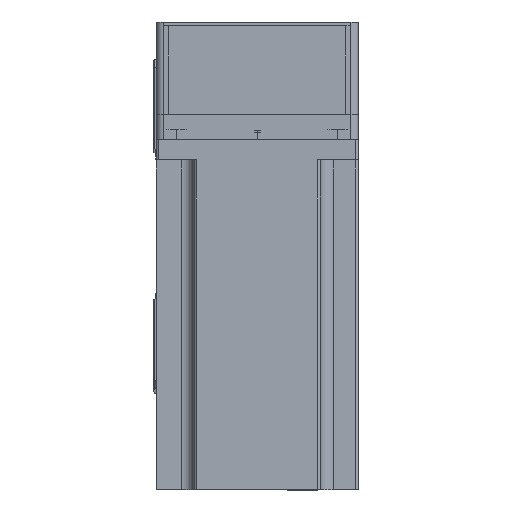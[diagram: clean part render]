
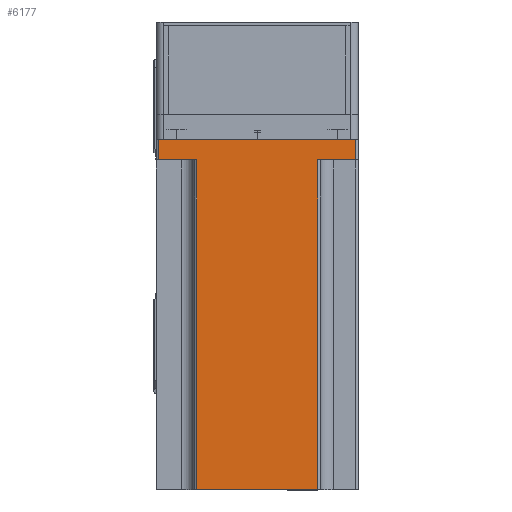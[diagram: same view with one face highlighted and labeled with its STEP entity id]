
A CAD part, top view. The second image highlights one B-rep face of the part: STEP entity #6177.
In plain terms, the highlighted planar face has unit normal (0, 0, 1) as drawn and (0, 1, 0) by its records, which use the part's own axes.
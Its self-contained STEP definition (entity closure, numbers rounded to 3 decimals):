
#1399 = VERTEX_POINT ( 'NONE', #14875 ) ;
#3654 = CARTESIAN_POINT ( 'NONE',  ( 24., 40., 138.3 ) ) ;
#4291 = EDGE_CURVE ( 'NONE', #1399, #6388, #19163, .T. ) ;
#4660 = ORIENTED_EDGE ( 'NONE', *, *, #47241, .T. ) ;
#5019 = VERTEX_POINT ( 'NONE', #41285 ) ;
#5440 = VERTEX_POINT ( 'NONE', #36002 ) ;
#5580 = LINE ( 'NONE', #22726, #35403 ) ;
#5997 = LINE ( 'NONE', #28979, #25425 ) ;
#6177 = ADVANCED_FACE ( 'NONE', ( #25103 ), #44171, .F. ) ;
#6388 = VERTEX_POINT ( 'NONE', #6774 ) ;
#6702 = CARTESIAN_POINT ( 'NONE',  ( 39., 40., 8. ) ) ;
#6774 = CARTESIAN_POINT ( 'NONE',  ( -39., 40., 8. ) ) ;
#8683 = VECTOR ( 'NONE', #19477, 1000. ) ;
#11399 = VERTEX_POINT ( 'NONE', #3654 ) ;
#11482 = CARTESIAN_POINT ( 'NONE',  ( 40., 40., 138.3 ) ) ;
#11685 = VECTOR ( 'NONE', #18305, 1000. ) ;
#12104 = VECTOR ( 'NONE', #34168, 1000. ) ;
#13028 = CARTESIAN_POINT ( 'NONE',  ( 40., 40., 138.3 ) ) ;
#13102 = CARTESIAN_POINT ( 'NONE',  ( 39., 40., 0. ) ) ;
#13364 = DIRECTION ( 'NONE',  ( -1., 0., 0. ) ) ;
#14130 = LINE ( 'NONE', #21934, #11685 ) ;
#14862 = DIRECTION ( 'NONE',  ( -1., 0., 0. ) ) ;
#14875 = CARTESIAN_POINT ( 'NONE',  ( -39., 40., 0. ) ) ;
#16893 = DIRECTION ( 'NONE',  ( 1., 0., 0. ) ) ;
#16905 = EDGE_CURVE ( 'NONE', #11399, #49289, #48956, .T. ) ;
#18148 = EDGE_LOOP ( 'NONE', ( #40304, #50141, #41544, #21693, #22981, #4660, #38672, #46018 ) ) ;
#18305 = DIRECTION ( 'NONE',  ( 0., 0., -1. ) ) ;
#19163 = LINE ( 'NONE', #32277, #29599 ) ;
#19280 = EDGE_CURVE ( 'NONE', #25148, #5440, #36818, .T. ) ;
#19477 = DIRECTION ( 'NONE',  ( -1., 0., 0. ) ) ;
#21693 = ORIENTED_EDGE ( 'NONE', *, *, #39562, .T. ) ;
#21934 = CARTESIAN_POINT ( 'NONE',  ( 24., 40., 138.3 ) ) ;
#22726 = CARTESIAN_POINT ( 'NONE',  ( 40., 40., 0. ) ) ;
#22981 = ORIENTED_EDGE ( 'NONE', *, *, #19280, .F. ) ;
#25103 = FACE_OUTER_BOUND ( 'NONE', #18148, .T. ) ;
#25148 = VERTEX_POINT ( 'NONE', #6702 ) ;
#25425 = VECTOR ( 'NONE', #32946, 1000. ) ;
#27633 = LINE ( 'NONE', #36014, #48455 ) ;
#28897 = CARTESIAN_POINT ( 'NONE',  ( 25., 40., 8. ) ) ;
#28979 = CARTESIAN_POINT ( 'NONE',  ( -24., 40., 138.3 ) ) ;
#29599 = VECTOR ( 'NONE', #36038, 1000. ) ;
#30198 = CARTESIAN_POINT ( 'NONE',  ( -25., 40., 8. ) ) ;
#32078 = DIRECTION ( 'NONE',  ( 0., 0., -1. ) ) ;
#32277 = CARTESIAN_POINT ( 'NONE',  ( -39., 40., 138.3 ) ) ;
#32946 = DIRECTION ( 'NONE',  ( 0., 0., 1. ) ) ;
#34168 = DIRECTION ( 'NONE',  ( 1., 0., 0. ) ) ;
#35403 = VECTOR ( 'NONE', #14862, 1000. ) ;
#36002 = CARTESIAN_POINT ( 'NONE',  ( 24., 40., 8. ) ) ;
#36014 = CARTESIAN_POINT ( 'NONE',  ( 39., 40., 138.3 ) ) ;
#36038 = DIRECTION ( 'NONE',  ( 0., 0., 1. ) ) ;
#36818 = LINE ( 'NONE', #28897, #47159 ) ;
#38672 = ORIENTED_EDGE ( 'NONE', *, *, #44411, .T. ) ;
#38780 = VERTEX_POINT ( 'NONE', #13102 ) ;
#38800 = EDGE_CURVE ( 'NONE', #5019, #49289, #5997, .T. ) ;
#39562 = EDGE_CURVE ( 'NONE', #11399, #5440, #14130, .T. ) ;
#40304 = ORIENTED_EDGE ( 'NONE', *, *, #44859, .T. ) ;
#40396 = DIRECTION ( 'NONE',  ( 0., -1., 0. ) ) ;
#41285 = CARTESIAN_POINT ( 'NONE',  ( -24., 40., 8. ) ) ;
#41544 = ORIENTED_EDGE ( 'NONE', *, *, #16905, .F. ) ;
#41947 = AXIS2_PLACEMENT_3D ( 'NONE', #13028, #40396, #16893 ) ;
#44171 = PLANE ( 'NONE',  #41947 ) ;
#44411 = EDGE_CURVE ( 'NONE', #38780, #1399, #5580, .T. ) ;
#44449 = CARTESIAN_POINT ( 'NONE',  ( -24., 40., 138.3 ) ) ;
#44859 = EDGE_CURVE ( 'NONE', #6388, #5019, #48196, .T. ) ;
#46018 = ORIENTED_EDGE ( 'NONE', *, *, #4291, .T. ) ;
#47159 = VECTOR ( 'NONE', #13364, 1000. ) ;
#47241 = EDGE_CURVE ( 'NONE', #25148, #38780, #27633, .T. ) ;
#48196 = LINE ( 'NONE', #30198, #12104 ) ;
#48455 = VECTOR ( 'NONE', #32078, 1000. ) ;
#48956 = LINE ( 'NONE', #11482, #8683 ) ;
#49289 = VERTEX_POINT ( 'NONE', #44449 ) ;
#50141 = ORIENTED_EDGE ( 'NONE', *, *, #38800, .T. ) ;
